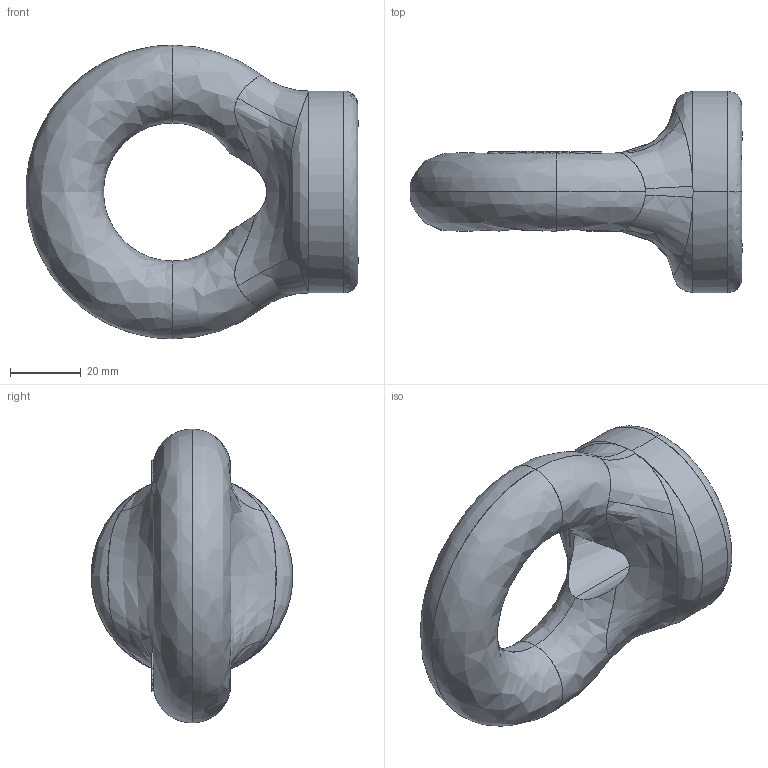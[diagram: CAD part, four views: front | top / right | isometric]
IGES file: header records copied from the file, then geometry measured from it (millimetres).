
Start section: SolidWorks IGES FILE using analytic representation for surfaces
Global section: file name: C:\Documents and Settings\User\My Documents\Townley products\Eye bolts\EBB1000\Model\Finished Part Drawings\ENB1000.IGS; native system: SolidWorks 2004 by SolidWorks Corporation; preprocessor: Version 5.3; author: User; date: 100210.191646; units: millimetre
Bounding box: 93.8 x 57 x 83 mm (x, y, z)
Surface area: 19810.9 mm2 (no closed solid volume)
Topology: 0 solids, 0 shells, 225 faces, 2859 edges, 2859 vertices
Faces by surface type: bspline 219, revolution 6
